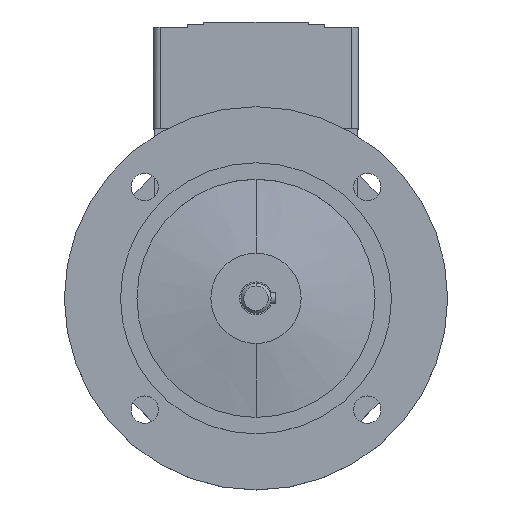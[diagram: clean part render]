
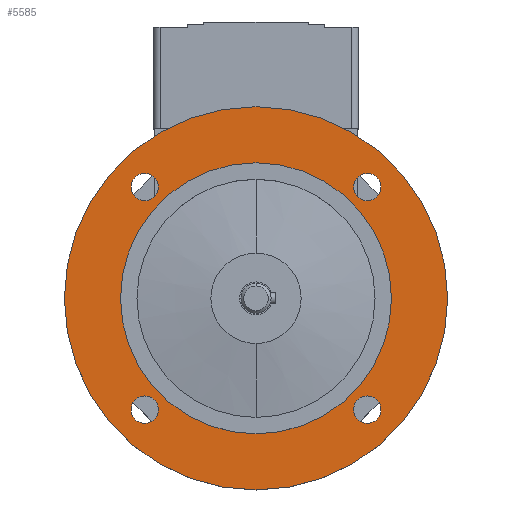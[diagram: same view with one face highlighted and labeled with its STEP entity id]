
A CAD part, top view. The second image highlights one B-rep face of the part: STEP entity #5585.
In plain terms, the highlighted planar face has unit normal (0, 0, 1).
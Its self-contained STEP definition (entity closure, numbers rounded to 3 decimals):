
#1560=CARTESIAN_POINT('',(-40.659,40.659,29.));
#1561=DIRECTION('',(0.,0.,-1.));
#1562=DIRECTION('',(-1.,0.,0.));
#1563=AXIS2_PLACEMENT_3D('',#1560,#1561,#1562);
#1565=CARTESIAN_POINT('',(-40.659,40.659,29.));
#1566=DIRECTION('',(0.,0.,-1.));
#1567=DIRECTION('',(1.,0.,0.));
#1568=AXIS2_PLACEMENT_3D('',#1565,#1566,#1567);
#1570=CARTESIAN_POINT('',(-40.659,-40.659,29.));
#1571=DIRECTION('',(0.,0.,-1.));
#1572=DIRECTION('',(-1.,0.,0.));
#1573=AXIS2_PLACEMENT_3D('',#1570,#1571,#1572);
#1575=CARTESIAN_POINT('',(-40.659,-40.659,29.));
#1576=DIRECTION('',(0.,0.,-1.));
#1577=DIRECTION('',(1.,0.,0.));
#1578=AXIS2_PLACEMENT_3D('',#1575,#1576,#1577);
#1580=CARTESIAN_POINT('',(40.659,-40.659,29.));
#1581=DIRECTION('',(0.,0.,-1.));
#1582=DIRECTION('',(-1.,0.,0.));
#1583=AXIS2_PLACEMENT_3D('',#1580,#1581,#1582);
#1585=CARTESIAN_POINT('',(40.659,-40.659,29.));
#1586=DIRECTION('',(0.,0.,-1.));
#1587=DIRECTION('',(1.,0.,0.));
#1588=AXIS2_PLACEMENT_3D('',#1585,#1586,#1587);
#1590=CARTESIAN_POINT('',(0.,0.,29.));
#1591=DIRECTION('',(0.,0.,1.));
#1592=DIRECTION('',(0.,1.,0.));
#1593=AXIS2_PLACEMENT_3D('',#1590,#1591,#1592);
#1595=CARTESIAN_POINT('',(0.,0.,29.));
#1596=DIRECTION('',(0.,0.,-1.));
#1597=DIRECTION('',(0.,1.,0.));
#1598=AXIS2_PLACEMENT_3D('',#1595,#1596,#1597);
#1600=CARTESIAN_POINT('',(40.659,40.659,29.));
#1601=DIRECTION('',(0.,0.,-1.));
#1602=DIRECTION('',(-1.,0.,0.));
#1603=AXIS2_PLACEMENT_3D('',#1600,#1601,#1602);
#1605=CARTESIAN_POINT('',(40.659,40.659,29.));
#1606=DIRECTION('',(0.,0.,-1.));
#1607=DIRECTION('',(1.,0.,0.));
#1608=AXIS2_PLACEMENT_3D('',#1605,#1606,#1607);
#1610=CARTESIAN_POINT('',(0.,0.,29.));
#1611=DIRECTION('',(0.,0.,-1.));
#1612=DIRECTION('',(-1.,0.,0.));
#1613=AXIS2_PLACEMENT_3D('',#1610,#1611,#1612);
#1615=CARTESIAN_POINT('',(0.,0.,29.));
#1616=DIRECTION('',(0.,0.,-1.));
#1617=DIRECTION('',(1.,0.,0.));
#1618=AXIS2_PLACEMENT_3D('',#1615,#1616,#1617);
#2702=CARTESIAN_POINT('',(0.,70.,29.));
#2704=VERTEX_POINT('',#2702);
#2706=CARTESIAN_POINT('',(0.,-70.,29.));
#2708=VERTEX_POINT('',#2706);
#2713=CARTESIAN_POINT('',(35.659,40.659,29.));
#2714=CARTESIAN_POINT('',(45.659,40.659,29.));
#2715=VERTEX_POINT('',#2713);
#2716=VERTEX_POINT('',#2714);
#2721=CARTESIAN_POINT('',(35.659,-40.659,29.));
#2722=CARTESIAN_POINT('',(45.659,-40.659,29.));
#2723=VERTEX_POINT('',#2721);
#2724=VERTEX_POINT('',#2722);
#2729=CARTESIAN_POINT('',(-45.659,-40.659,29.));
#2730=CARTESIAN_POINT('',(-35.659,-40.659,29.));
#2731=VERTEX_POINT('',#2729);
#2732=VERTEX_POINT('',#2730);
#2737=CARTESIAN_POINT('',(-45.659,40.659,29.));
#2738=CARTESIAN_POINT('',(-35.659,40.659,29.));
#2739=VERTEX_POINT('',#2737);
#2740=VERTEX_POINT('',#2738);
#2749=CARTESIAN_POINT('',(-49.5,0.,29.));
#2750=CARTESIAN_POINT('',(49.5,0.,29.));
#2751=VERTEX_POINT('',#2749);
#2752=VERTEX_POINT('',#2750);
#5546=CARTESIAN_POINT('',(0.,0.,29.));
#5547=DIRECTION('',(0.,0.,-1.));
#5548=DIRECTION('',(0.,-1.,0.));
#5549=AXIS2_PLACEMENT_3D('',#5546,#5547,#5548);
#5550=PLANE('',#5549);
#5552=ORIENTED_EDGE('',*,*,#5551,.F.);
#5554=ORIENTED_EDGE('',*,*,#5553,.T.);
#5555=EDGE_LOOP('',(#5552,#5554));
#5556=FACE_OUTER_BOUND('',#5555,.F.);
#5557=ORIENTED_EDGE('',*,*,#5536,.F.);
#5559=ORIENTED_EDGE('',*,*,#5558,.F.);
#5560=EDGE_LOOP('',(#5557,#5559));
#5561=FACE_BOUND('',#5560,.F.);
#5563=ORIENTED_EDGE('',*,*,#5562,.F.);
#5565=ORIENTED_EDGE('',*,*,#5564,.F.);
#5566=EDGE_LOOP('',(#5563,#5565));
#5567=FACE_BOUND('',#5566,.F.);
#5569=ORIENTED_EDGE('',*,*,#5568,.F.);
#5571=ORIENTED_EDGE('',*,*,#5570,.F.);
#5572=EDGE_LOOP('',(#5569,#5571));
#5573=FACE_BOUND('',#5572,.F.);
#5575=ORIENTED_EDGE('',*,*,#5574,.F.);
#5577=ORIENTED_EDGE('',*,*,#5576,.F.);
#5578=EDGE_LOOP('',(#5575,#5577));
#5579=FACE_BOUND('',#5578,.F.);
#5581=ORIENTED_EDGE('',*,*,#5580,.F.);
#5582=ORIENTED_EDGE('',*,*,#4133,.F.);
#5583=EDGE_LOOP('',(#5581,#5582));
#5584=FACE_BOUND('',#5583,.F.);
#5585=ADVANCED_FACE('',(#5556,#5561,#5567,#5573,#5579,#5584),#5550,.F.);
#1564=CIRCLE('',#1563,5.);
#1569=CIRCLE('',#1568,5.);
#1574=CIRCLE('',#1573,5.);
#1579=CIRCLE('',#1578,5.);
#1584=CIRCLE('',#1583,5.);
#1589=CIRCLE('',#1588,5.);
#1594=CIRCLE('',#1593,70.);
#1599=CIRCLE('',#1598,70.);
#1604=CIRCLE('',#1603,5.);
#1609=CIRCLE('',#1608,5.);
#1614=CIRCLE('',#1613,49.5);
#1619=CIRCLE('',#1618,49.5);
#4133=EDGE_CURVE('',#2752,#2751,#1619,.T.);
#5536=EDGE_CURVE('',#2739,#2740,#1564,.T.);
#5551=EDGE_CURVE('',#2704,#2708,#1594,.T.);
#5553=EDGE_CURVE('',#2704,#2708,#1599,.T.);
#5558=EDGE_CURVE('',#2740,#2739,#1569,.T.);
#5562=EDGE_CURVE('',#2731,#2732,#1574,.T.);
#5564=EDGE_CURVE('',#2732,#2731,#1579,.T.);
#5568=EDGE_CURVE('',#2723,#2724,#1584,.T.);
#5570=EDGE_CURVE('',#2724,#2723,#1589,.T.);
#5574=EDGE_CURVE('',#2715,#2716,#1604,.T.);
#5576=EDGE_CURVE('',#2716,#2715,#1609,.T.);
#5580=EDGE_CURVE('',#2751,#2752,#1614,.T.);
